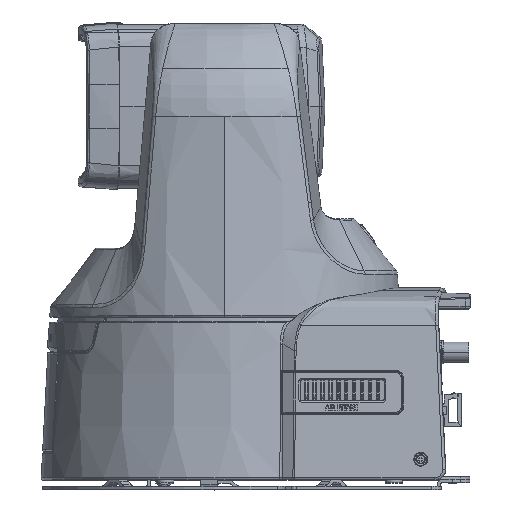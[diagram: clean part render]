
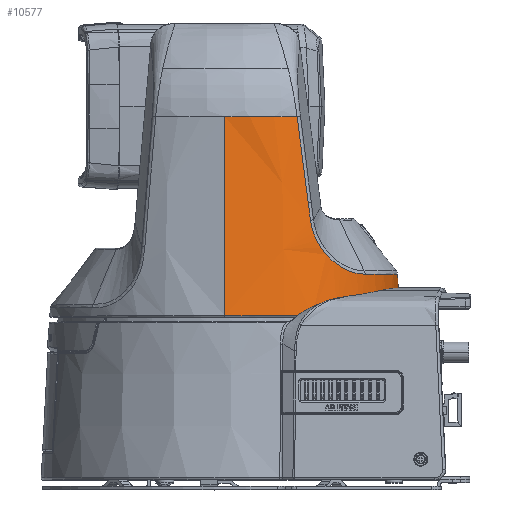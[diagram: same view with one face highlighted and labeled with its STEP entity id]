
A CAD part, top view. The second image highlights one B-rep face of the part: STEP entity #10577.
In plain terms, the highlighted conical face has half-angle 3 degrees and reference radius 78.943 mm.
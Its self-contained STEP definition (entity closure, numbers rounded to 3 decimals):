
#2124=CONICAL_SURFACE('',#200721,78.943,3.);
#3446=B_SPLINE_CURVE_WITH_KNOTS('',3,(#152030,#152036,#152037,#152038,#152039,#152040,#151996),.UNSPECIFIED.,.F.,.U.,(4,1,1,1,4),(0.,0.25,0.5,0.75,1.),.UNSPECIFIED.);
#3463=B_SPLINE_CURVE_WITH_KNOTS('',3,(#152695,#152711,#152712,#152713,#152714,#152715,#152710),.UNSPECIFIED.,.F.,.U.,(4,1,1,1,4),(0.,0.25,0.5,0.75,1.),.UNSPECIFIED.);
#3483=B_SPLINE_CURVE_WITH_KNOTS('',3,(#153597,#153598,#153599,#153600,#153601,#153602,#153603,#153604,#153605,#153606),.UNSPECIFIED.,.F.,.U.,(4,1,1,1,1,1,1,4),(0.,0.11,0.272,0.468,0.66,0.801,0.901,1.),.UNSPECIFIED.);
#3496=B_SPLINE_CURVE_WITH_KNOTS('',3,(#155170,#155177,#155178,#151996),.UNSPECIFIED.,.F.,.U.,(4,4),(0.,1.),.UNSPECIFIED.);
#3530=B_SPLINE_CURVE_WITH_KNOTS('',3,(#153594,#159124,#159125,#159118),.UNSPECIFIED.,.F.,.U.,(4,4),(0.,1.),.UNSPECIFIED.);
#3531=B_SPLINE_CURVE_WITH_KNOTS('',3,(#159118,#159268,#159269,#159270,#159271,#159272,#159273,#159274,#159275,#159276,#159277,#159278,#159279,#159266),.UNSPECIFIED.,.F.,.U.,(4,1,1,1,1,1,1,1,1,1,1,4),(0.,0.063,0.126,0.188,0.251,0.314,0.376,0.501,0.625,0.75,0.875,1.),.UNSPECIFIED.);
#3532=B_SPLINE_CURVE_WITH_KNOTS('',3,(#159266,#159492,#159493,#159494,#159495,#159496,#159497,#159498,#159499,#159500,#159501,#159502,#159503,#159504,#159505,#159506,#159507,#159508,#159490),.UNSPECIFIED.,.F.,.U.,(4,1,1,1,1,1,1,1,1,1,1,1,1,1,1,1,4),(0.,0.063,0.125,0.187,0.25,0.312,0.375,0.437,0.499,0.562,0.625,0.687,0.749,0.812,0.875,0.937,1.),.UNSPECIFIED.);
#3533=B_SPLINE_CURVE_WITH_KNOTS('',3,(#159518,#159519,#159520,#155170),.UNSPECIFIED.,.F.,.U.,(4,4),(0.,1.),.UNSPECIFIED.);
#3535=B_SPLINE_CURVE_WITH_KNOTS('',3,(#159490,#159664,#159665,#159666,#159667,#159668,#159669,#159670,#159671,#159672,#159673,#159674,#159675,#159518),.UNSPECIFIED.,.F.,.U.,(4,1,1,1,1,1,1,1,1,1,1,4),(0.,0.125,0.25,0.375,0.499,0.624,0.686,0.749,0.812,0.874,0.937,1.),.UNSPECIFIED.);
#10577=ADVANCED_FACE('',(#15896),#2124,.T.);
#15896=FACE_OUTER_BOUND('',#84363,.T.);
#19701=CIRCLE('',#200722,83.946);
#42486=ORIENTED_EDGE('',*,*,#57164,.T.);
#42487=ORIENTED_EDGE('',*,*,#57165,.T.);
#42488=ORIENTED_EDGE('',*,*,#56636,.F.);
#42489=ORIENTED_EDGE('',*,*,#56668,.T.);
#42490=ORIENTED_EDGE('',*,*,#56723,.T.);
#42491=ORIENTED_EDGE('',*,*,#56725,.T.);
#42492=ORIENTED_EDGE('',*,*,#56727,.T.);
#42493=ORIENTED_EDGE('',*,*,#56730,.T.);
#42494=ORIENTED_EDGE('',*,*,#56728,.T.);
#42495=ORIENTED_EDGE('',*,*,#56682,.T.);
#42496=ORIENTED_EDGE('',*,*,#56619,.F.);
#42497=ORIENTED_EDGE('',*,*,#57166,.F.);
#56619=EDGE_CURVE('12787',#78406,#78404,#3446,.T.);
#56636=EDGE_CURVE('12148',#78418,#78419,#3463,.T.);
#56668=EDGE_CURVE('9714',#78418,#78440,#3483,.T.);
#56682=EDGE_CURVE('9708',#78445,#78404,#3496,.T.);
#56723=EDGE_CURVE('9715',#78440,#78450,#3530,.T.);
#56725=EDGE_CURVE('9716',#78450,#78451,#3531,.T.);
#56727=EDGE_CURVE('9717',#78451,#78452,#3532,.T.);
#56728=EDGE_CURVE('9707',#78453,#78445,#3533,.T.);
#56730=EDGE_CURVE('9706',#78452,#78453,#3535,.T.);
#57164=EDGE_CURVE('12146',#78715,#78716,#19701,.T.);
#57165=EDGE_CURVE('12145',#78716,#78419,#71408,.T.);
#57166=EDGE_CURVE('12788',#78715,#78406,#71409,.T.);
#65016=VECTOR('',#201739,95.605);
#65017=VECTOR('',#201718,95.605);
#71408=LINE('',#172096,#65016);
#71409=LINE('',#172095,#65017);
#78404=VERTEX_POINT('6338',#151996);
#78406=VERTEX_POINT('8036',#152030);
#78418=VERTEX_POINT('6349',#152695);
#78419=VERTEX_POINT('7803',#152710);
#78440=VERTEX_POINT('6363',#153594);
#78445=VERTEX_POINT('6358',#155170);
#78450=VERTEX_POINT('6364',#159118);
#78451=VERTEX_POINT('6365',#159266);
#78452=VERTEX_POINT('6356',#159490);
#78453=VERTEX_POINT('6357',#159518);
#78715=VERTEX_POINT('6355',#172095);
#78716=VERTEX_POINT('7802',#172096);
#84363=EDGE_LOOP('',(#42486,#42487,#42488,#42489,#42490,#42491,#42492,#42493,#42494,#42495,#42496,#42497));
#151996=CARTESIAN_POINT('',(34.661,-5.,70.926));
#152030=CARTESIAN_POINT('',(0.,-5.,78.943));
#152036=CARTESIAN_POINT('',(2.986,-5.,78.943));
#152037=CARTESIAN_POINT('',(8.965,-5.,78.603));
#152038=CARTESIAN_POINT('',(17.827,-5.,77.079));
#152039=CARTESIAN_POINT('',(26.458,-5.,74.558));
#152040=CARTESIAN_POINT('',(31.978,-5.,72.238));
#152695=CARTESIAN_POINT('',(34.661,-5.,-70.926));
#152710=CARTESIAN_POINT('',(0.,-5.,-78.943));
#152711=CARTESIAN_POINT('',(31.978,-5.,-72.238));
#152712=CARTESIAN_POINT('',(26.458,-5.,-74.558));
#152713=CARTESIAN_POINT('',(17.826,-5.,-77.079));
#152714=CARTESIAN_POINT('',(8.965,-5.,-78.603));
#152715=CARTESIAN_POINT('',(2.986,-5.,-78.943));
#153594=CARTESIAN_POINT('',(39.982,-46.175,-70.56));
#153597=CARTESIAN_POINT('',(34.661,-5.,-70.926));
#153598=CARTESIAN_POINT('',(34.802,-6.092,-70.921));
#153599=CARTESIAN_POINT('',(35.098,-8.392,-70.91));
#153600=CARTESIAN_POINT('',(36.032,-15.65,-70.869));
#153601=CARTESIAN_POINT('',(37.3,-25.47,-70.794));
#153602=CARTESIAN_POINT('',(38.562,-35.229,-70.695));
#153603=CARTESIAN_POINT('',(39.274,-40.715,-70.63));
#153604=CARTESIAN_POINT('',(39.631,-43.463,-70.596));
#153605=CARTESIAN_POINT('',(39.867,-45.289,-70.572));
#153606=CARTESIAN_POINT('',(39.982,-46.175,-70.56));
#155170=CARTESIAN_POINT('',(39.982,-46.175,70.56));
#155177=CARTESIAN_POINT('',(38.2,-32.451,70.743));
#155178=CARTESIAN_POINT('',(36.427,-18.726,70.864));
#159118=CARTESIAN_POINT('',(41.075,-54.593,-70.44));
#159124=CARTESIAN_POINT('',(40.346,-48.981,-70.523));
#159125=CARTESIAN_POINT('',(40.71,-51.787,-70.483));
#159266=CARTESIAN_POINT('',(67.251,-80.486,-48.471));
#159268=CARTESIAN_POINT('',(41.204,-55.581,-70.426));
#159269=CARTESIAN_POINT('',(41.557,-57.536,-70.338));
#159270=CARTESIAN_POINT('',(42.367,-60.377,-70.028));
#159271=CARTESIAN_POINT('',(43.436,-63.096,-69.54));
#159272=CARTESIAN_POINT('',(44.743,-65.672,-68.869));
#159273=CARTESIAN_POINT('',(46.256,-68.075,-68.017));
#159274=CARTESIAN_POINT('',(48.496,-71.022,-66.645));
#159275=CARTESIAN_POINT('',(51.63,-74.191,-64.497));
#159276=CARTESIAN_POINT('',(55.663,-77.106,-61.271));
#159277=CARTESIAN_POINT('',(59.738,-79.119,-57.468));
#159278=CARTESIAN_POINT('',(63.669,-80.26,-53.179));
#159279=CARTESIAN_POINT('',(66.1,-80.488,-50.069));
#159490=CARTESIAN_POINT('',(67.251,-80.486,48.471));
#159492=CARTESIAN_POINT('',(68.516,-80.484,-46.717));
#159493=CARTESIAN_POINT('',(70.901,-80.481,-43.119));
#159494=CARTESIAN_POINT('',(74.04,-80.477,-37.47));
#159495=CARTESIAN_POINT('',(76.73,-80.473,-31.601));
#159496=CARTESIAN_POINT('',(78.961,-80.47,-25.52));
#159497=CARTESIAN_POINT('',(80.712,-80.469,-19.279));
#159498=CARTESIAN_POINT('',(81.967,-80.467,-12.931));
#159499=CARTESIAN_POINT('',(82.725,-80.466,-6.521));
#159500=CARTESIAN_POINT('',(82.982,-80.465,-0.055));
#159501=CARTESIAN_POINT('',(82.733,-80.466,6.423));
#159502=CARTESIAN_POINT('',(81.979,-80.466,12.855));
#159503=CARTESIAN_POINT('',(80.733,-80.468,19.19));
#159504=CARTESIAN_POINT('',(78.994,-80.47,25.415));
#159505=CARTESIAN_POINT('',(76.769,-80.474,31.507));
#159506=CARTESIAN_POINT('',(74.068,-80.477,37.417));
#159507=CARTESIAN_POINT('',(70.913,-80.481,43.101));
#159508=CARTESIAN_POINT('',(68.518,-80.484,46.713));
#159518=CARTESIAN_POINT('',(41.075,-54.593,70.44));
#159519=CARTESIAN_POINT('',(40.71,-51.787,70.483));
#159520=CARTESIAN_POINT('',(40.346,-48.981,70.523));
#159664=CARTESIAN_POINT('',(66.1,-80.488,50.069));
#159665=CARTESIAN_POINT('',(63.669,-80.26,53.179));
#159666=CARTESIAN_POINT('',(59.738,-79.119,57.468));
#159667=CARTESIAN_POINT('',(55.663,-77.106,61.271));
#159668=CARTESIAN_POINT('',(51.63,-74.191,64.497));
#159669=CARTESIAN_POINT('',(48.496,-71.022,66.645));
#159670=CARTESIAN_POINT('',(46.256,-68.075,68.017));
#159671=CARTESIAN_POINT('',(44.743,-65.672,68.869));
#159672=CARTESIAN_POINT('',(43.436,-63.096,69.54));
#159673=CARTESIAN_POINT('',(42.367,-60.377,70.028));
#159674=CARTESIAN_POINT('',(41.557,-57.536,70.338));
#159675=CARTESIAN_POINT('',(41.204,-55.581,70.426));
#172094=CARTESIAN_POINT('',(0.,-5.,0.));
#172095=CARTESIAN_POINT('',(0.,-100.474,83.946));
#172096=CARTESIAN_POINT('',(0.,-100.474,-83.946));
#172097=CARTESIAN_POINT('',(0.,-100.474,0.));
#200721=AXIS2_PLACEMENT_3D('',#172094,#201488,#201489);
#200722=AXIS2_PLACEMENT_3D('',#172097,#201486,#201484);
#201484=DIRECTION('',(0.,0.,1.));
#201486=DIRECTION('',(0.,1.,0.));
#201488=DIRECTION('',(0.,-1.,0.));
#201489=DIRECTION('',(0.,0.,-1.));
#201718=DIRECTION('',(0.,0.999,-0.052));
#201739=DIRECTION('',(0.,0.999,0.052));
